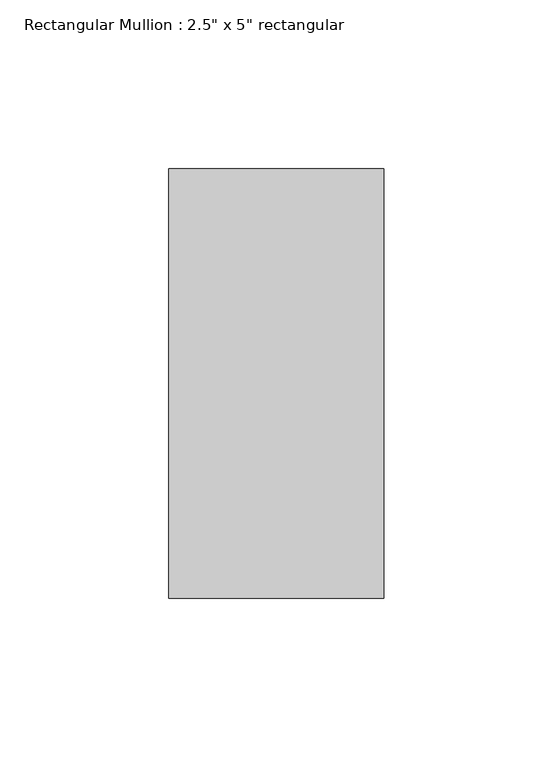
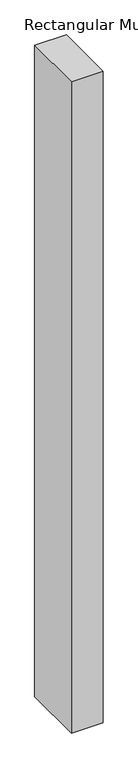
"""IFC4 building model written with IfcOpenShell, lengths in millimetres: member geometry."""

import ifcopenshell
import ifcopenshell.guid

model = None  # the IFC model being written
_history = None  # IfcOwnerHistory: only IFC2X3 demands one
_inside = {}  # id of a spatial element -> (the spatial element, [elements in it])
_under = {}  # id of a project, library or spatial element -> (it, [spatial elements below it])
_declared = {}  # id of a project -> (the project, [libraries it declares])
_typed = {}  # id of a type object -> (the type object, [elements of that type])
_made_of = {}  # id of a material, layer set ... -> (it, [elements and type objects made of it])


def new_model(schema):
    """Start an empty IFC model of exactly this schema.

    Asked for "IFC4X3", IfcOpenShell would pick the latest addendum, in which some entities
    have other attributes; the version numbers below select the first issue.
    IFC2X3 requires an IfcOwnerHistory on every rooted entity: one is made here for all.
    """
    global model, _history
    if schema == "IFC4X3":
        model = ifcopenshell.file(schema_version=(4, 3, 0, 0))
    else:
        model = ifcopenshell.file(schema=schema)
    _inside.clear()
    _under.clear()
    _declared.clear()
    _typed.clear()
    _made_of.clear()
    _history = None
    if model.schema == "IFC2X3":
        org = make("IfcOrganization", Name="unknown")
        user = make(
            "IfcPersonAndOrganization",
            ThePerson=make("IfcPerson", FamilyName="unknown"),
            TheOrganization=org,
        )
        app = make(
            "IfcApplication",
            ApplicationDeveloper=org,
            Version="unknown",
            ApplicationFullName="unknown",
            ApplicationIdentifier="unknown",
        )
        _history = make(
            "IfcOwnerHistory",
            OwningUser=user,
            OwningApplication=app,
            ChangeAction="ADDED",
            CreationDate=0,
        )
    return model


def make(cls, **values):
    """One entity of the class cls with the attributes given. An attribute that is None is left unset."""
    return model.create_entity(
        cls, **{name: value for name, value in values.items() if value is not None}
    )


def rooted(cls, **values):
    """An entity with a GlobalId (a new one), such as an element, a storey or a relation."""
    return make(cls, GlobalId=ifcopenshell.guid.new(), OwnerHistory=_history, **values)


def si_unit(unit_type, name, prefix=None):
    """IfcSIUnit, for example si_unit("LENGTHUNIT", "METRE", prefix="MILLI")."""
    return make("IfcSIUnit", UnitType=unit_type, Prefix=prefix, Name=name)


def assignment(units):
    """IfcUnitAssignment: the units of a project."""
    return None if units is None else make("IfcUnitAssignment", Units=units)


def point(xyz):
    """IfcCartesianPoint."""
    return None if xyz is None else make("IfcCartesianPoint", Coordinates=xyz)


def direction(xyz):
    """IfcDirection."""
    return None if xyz is None else make("IfcDirection", DirectionRatios=xyz)


def frame(location, z_axis=None, x_axis=None):
    """IfcAxis2Placement3D, a coordinate frame: its origin and axes. An axis left out is left unset."""
    return make(
        "IfcAxis2Placement3D",
        Location=point(location),
        Axis=direction(z_axis),
        RefDirection=direction(x_axis),
    )


def origin():
    """The frame at (0, 0, 0) with its axes left unset."""
    return frame((0.0, 0.0, 0.0))


def place(relative_to, where):
    """IfcLocalPlacement: puts the frame where relative to a parent placement (None: the world)."""
    return make(
        "IfcLocalPlacement", PlacementRelTo=relative_to, RelativePlacement=where
    )


def context(
    kind, dimensions, precision=None, world=None, true_north=None, identifier=None
):
    """IfcGeometricRepresentationContext, for example the 3D "Model" context."""
    return make(
        "IfcGeometricRepresentationContext",
        ContextIdentifier=identifier,
        ContextType=kind,
        CoordinateSpaceDimension=dimensions,
        Precision=precision,
        WorldCoordinateSystem=world,
        TrueNorth=true_north,
    )


def project(units=None, contexts=None):
    """IfcProject with its units and contexts."""
    return rooted(
        "IfcProject",
        Name="project",
        RepresentationContexts=contexts,
        UnitsInContext=assignment(units),
    )


def spatial(cls, under=None, at=None, **own):
    """A site, building, storey or space (cls), placed at a placement, below another one or the project."""
    s = rooted(cls, ObjectPlacement=at, **own)
    if under is not None:
        _under.setdefault(under.id(), (under, []))[1].append(s)
    return s


def polyline(points):
    """IfcPolyline through the points."""
    return make("IfcPolyline", Points=[point(p) for p in points])


def outline(outer, holes=None, kind="AREA"):
    """IfcArbitraryClosedProfileDef: a profile drawn as a closed curve; with holes, ...WithVoids."""
    if holes is None:
        return make("IfcArbitraryClosedProfileDef", ProfileType=kind, OuterCurve=outer)
    return make(
        "IfcArbitraryProfileDefWithVoids",
        ProfileType=kind,
        OuterCurve=outer,
        InnerCurves=holes,
    )


def extrude(swept, where, along, depth):
    """IfcExtrudedAreaSolid: the profile swept, set in the frame where, extruded along a direction by depth."""
    return make(
        "IfcExtrudedAreaSolid",
        SweptArea=swept,
        Position=where,
        ExtrudedDirection=direction(along),
        Depth=depth,
    )


def shape(context_of_items, identifier, shape_type, items):
    """IfcShapeRepresentation: the items that make up one representation, for example the "Body"."""
    return make(
        "IfcShapeRepresentation",
        ContextOfItems=context_of_items,
        RepresentationIdentifier=identifier,
        RepresentationType=shape_type,
        Items=items,
    )


def source(mapping_origin, context_of_items, identifier, shape_type, items):
    """IfcRepresentationMap: a shape defined once, which mapped items show again and again."""
    return make(
        "IfcRepresentationMap",
        MappingOrigin=mapping_origin,
        MappedRepresentation=shape(context_of_items, identifier, shape_type, items),
    )


def transform(
    local_origin,
    x_axis=None,
    y_axis=None,
    z_axis=None,
    scale=None,
    scale2=None,
    scale3=None,
    uniform=True,
):
    """IfcCartesianTransformationOperator3D, or its non-uniform kind. x_axis, y_axis, z_axis: its Axis1, 2, 3."""
    if uniform:
        return make(
            "IfcCartesianTransformationOperator3D",
            Axis1=direction(x_axis),
            Axis2=direction(y_axis),
            LocalOrigin=point(local_origin),
            Scale=scale,
            Axis3=direction(z_axis),
        )
    return make(
        "IfcCartesianTransformationOperator3DnonUniform",
        Axis1=direction(x_axis),
        Axis2=direction(y_axis),
        LocalOrigin=point(local_origin),
        Scale=scale,
        Axis3=direction(z_axis),
        Scale2=scale2,
        Scale3=scale3,
    )


def mapped(mapping_source, mapping_target):
    """IfcMappedItem: shows the shape of a source again, moved by a transform."""
    return make(
        "IfcMappedItem", MappingSource=mapping_source, MappingTarget=mapping_target
    )


def made_of(thing, what):
    """Note that an element or type object is made of a material, layer set ...; save() writes the relation."""
    if what is not None:
        _made_of.setdefault(what.id(), (what, []))[1].append(thing)
    return thing


def element(
    cls,
    number,
    at=None,
    inside=None,
    cuts=None,
    type_object=None,
    material=None,
    context=None,
    identifier="Body",
    shape_type=None,
    held_by="IfcProductDefinitionShape",
    body=None,
    shapes=None,
    **own,
):
    """One element of the class cls, such as IfcWall. Its Tag is "e" and its number.

    at: its placement. inside: the storey or other place that contains it. cuts: it is an
    opening in that element (IfcRelVoidsElement). A single representation is given by context,
    identifier, shape_type and body (its items); several are given by shapes. held_by: the class
    of the entity that holds the representations. save() writes the other relations.
    """
    e = rooted(cls, Tag="e%d" % number, ObjectPlacement=at, **own)
    if body is not None:
        shapes = [shape(context, identifier, shape_type, body)]
    if shapes is not None:
        e.Representation = make(held_by, Representations=shapes)
    if inside is not None:
        _inside.setdefault(inside.id(), (inside, []))[1].append(e)
    if cuts is not None:
        rooted(
            "IfcRelVoidsElement", RelatingBuildingElement=cuts, RelatedOpeningElement=e
        )
    if type_object is not None:
        _typed.setdefault(type_object.id(), (type_object, []))[1].append(e)
    return made_of(e, material)


def aggregate(whole, parts):
    """IfcRelAggregates: a whole, such as a stair, and the parts it consists of."""
    return rooted("IfcRelAggregates", RelatingObject=whole, RelatedObjects=parts)


def save(model, path):
    """Write the relations noted so far, then the file.

    IfcRelAggregates (storeys below a building ...), IfcRelContainedInSpatialStructure (elements
    in a storey), IfcRelDefinesByType, IfcRelAssociatesMaterial and IfcRelDeclares: one each for
    every whole, place, type object, material and project.
    """
    for whole, parts in _under.values():
        aggregate(whole, parts)
    for where, things in _inside.values():
        rooted(
            "IfcRelContainedInSpatialStructure",
            RelatedElements=things,
            RelatingStructure=where,
        )
    for kind, things in _typed.values():
        rooted("IfcRelDefinesByType", RelatedObjects=things, RelatingType=kind)
    for what, things in _made_of.values():
        rooted("IfcRelAssociatesMaterial", RelatedObjects=things, RelatingMaterial=what)
    for by, libraries in _declared.values():
        rooted("IfcRelDeclares", RelatingContext=by, RelatedDefinitions=libraries)
    model.write(path)


def member_c64c2408(model_context):
    return source(origin(), model_context, "Body", "SweptSolid", [
        extrude(outline(polyline([(0.0, 63.5), (0.0, -63.5), (-63.5, -63.5), (-63.5, 63.5), (0.0, 63.5)])), frame((0.0, 0.0, -1377.2444444), z_axis=(0.0, 0.0, 1.0), x_axis=(1.0, 0.0, 0.0)), (0.0, 0.0, 1.0), 1377.2444444),
    ])


if __name__ == "__main__":
    model = new_model("IFC4")
    model_context = context("Model", 3, world=origin())
    ifc_project = project(units=[si_unit("LENGTHUNIT", "METRE", prefix="MILLI")], contexts=[model_context])
    site = spatial("IfcSite", under=ifc_project)
    building = spatial("IfcBuilding", under=site)
    placement = place(None, origin())
    member_shape = member_c64c2408(model_context)
    element("IfcMember", 1, ObjectType="Rectangular Mullion : 2.5\" x 5\" rectangular", at=placement, inside=building, context=model_context, shape_type="MappedRepresentation", body=[
        mapped(member_shape, transform((0.0, 0.0, 0.0), x_axis=(1.0, 0.0, 0.0), y_axis=(0.0, 1.0, 0.0), z_axis=(0.0, 0.0, 1.0))),
    ])
    save(model, "model.ifc")
